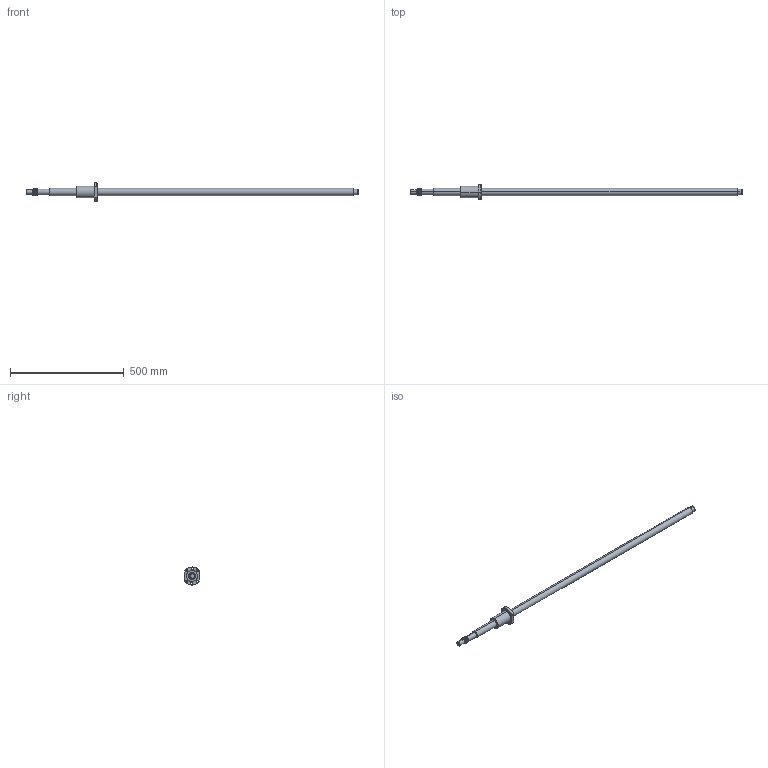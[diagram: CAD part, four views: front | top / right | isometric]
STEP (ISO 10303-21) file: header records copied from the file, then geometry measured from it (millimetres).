
FILE_DESCRIPTION (( 'STEP AP214' ), '1' );
FILE_NAME ('2.2133 STNUR3210-1460mm.STEP', '2025-09-19T08:06:47', ( '' ), ( '' ), 'SwSTEP 2.0', 'SolidWorks 2025', '' );
FILE_SCHEMA (( 'AUTOMOTIVE_DESIGN' ));
Length unit declared in the file: millimetre
Products named in the file (3): Kuularuuvimutteri STNUR3210; 2.2133 STNUR3210-1460mm
Assembly tree (2 placements, depth 2):
  2.2133 STNUR3210-1460mm
    2.2133 STNUR3210-1460mm
    Kuularuuvimutteri STNUR3210
Bounding box: 1460 x 65.87 x 79.9 mm (x, y, z)
Surface area: 170674.8 mm2 (no closed solid volume)
Topology: 0 solids, 3 shells, 92 faces, 242 edges, 159 vertices
Faces by surface type: cylinder 58, plane 16, cone 9, torus 6, bspline 3
Entity records: 5472 total; most frequent: CARTESIAN_POINT 2882, ORIENTED_EDGE 468, DIRECTION 445, EDGE_CURVE 242, AXIS2_PLACEMENT_3D 181, VERTEX_POINT 159, EDGE_LOOP 113, FACE_OUTER_BOUND 92
